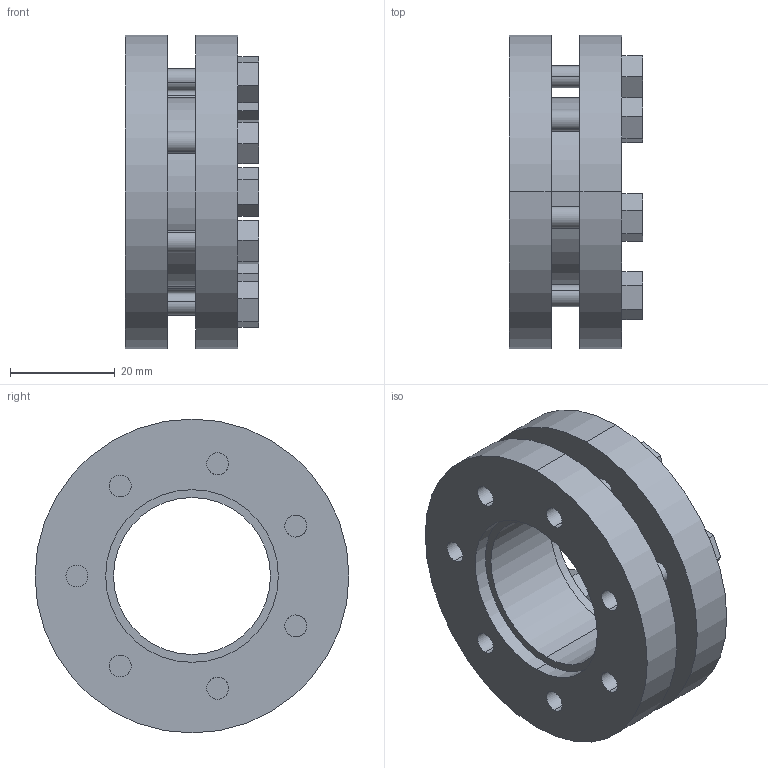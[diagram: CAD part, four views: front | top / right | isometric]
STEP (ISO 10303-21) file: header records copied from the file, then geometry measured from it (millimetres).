
FILE_DESCRIPTION (( 'STEP AP203' ), '1' );
FILE_NAME ('SSD-30.STEP', '2009-09-29T17:44:02', ( 'USER' ), ( 'HOME' ), 'SwSTEP 2.0', 'SolidWorks 2007', '' );
FILE_SCHEMA (( 'CONFIG_CONTROL_DESIGN' ));
Length unit declared in the file: millimetre
Products named in the file (1): SSD-30
Bounding box: 25.5 x 60 x 60 mm (x, y, z)
Volume: 36472.3 mm3; surface area: 17788.4 mm2
Topology: 8 solids, 8 shells, 123 faces, 288 edges, 192 vertices
Faces by surface type: plane 69, cylinder 54
Entity records: 3673 total; most frequent: DIRECTION 644, CARTESIAN_POINT 604, ORIENTED_EDGE 576, EDGE_CURVE 288, AXIS2_PLACEMENT_3D 232, VERTEX_POINT 192, VECTOR 180, LINE 180
